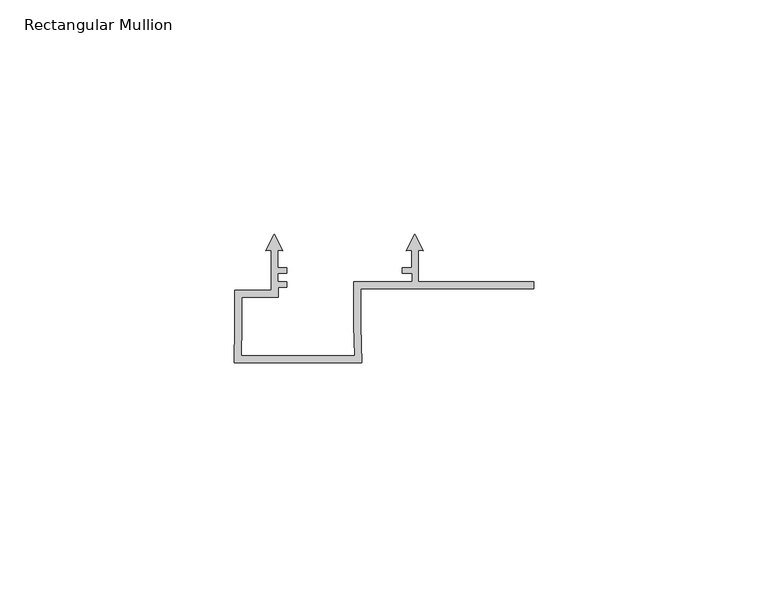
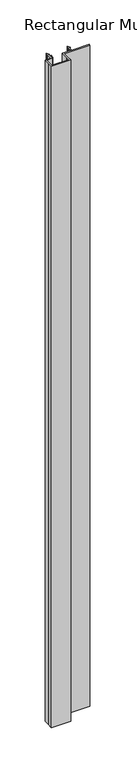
"""IFC4 building model written with IfcOpenShell, lengths in millimetres: member geometry, Rectangular Mullion : Renson_Linarte_LA-B16-01."""

import ifcopenshell
import ifcopenshell.guid

model = None  # the IFC model being written
_history = None  # IfcOwnerHistory: only IFC2X3 demands one
_inside = {}  # id of a spatial element -> (the spatial element, [elements in it])
_under = {}  # id of a project, library or spatial element -> (it, [spatial elements below it])
_declared = {}  # id of a project -> (the project, [libraries it declares])
_typed = {}  # id of a type object -> (the type object, [elements of that type])
_made_of = {}  # id of a material, layer set ... -> (it, [elements and type objects made of it])


def new_model(schema):
    """Start an empty IFC model of exactly this schema.

    Asked for "IFC4X3", IfcOpenShell would pick the latest addendum, in which some entities
    have other attributes; the version numbers below select the first issue.
    IFC2X3 requires an IfcOwnerHistory on every rooted entity: one is made here for all.
    """
    global model, _history
    if schema == "IFC4X3":
        model = ifcopenshell.file(schema_version=(4, 3, 0, 0))
    else:
        model = ifcopenshell.file(schema=schema)
    _inside.clear()
    _under.clear()
    _declared.clear()
    _typed.clear()
    _made_of.clear()
    _history = None
    if model.schema == "IFC2X3":
        org = make("IfcOrganization", Name="unknown")
        user = make(
            "IfcPersonAndOrganization",
            ThePerson=make("IfcPerson", FamilyName="unknown"),
            TheOrganization=org,
        )
        app = make(
            "IfcApplication",
            ApplicationDeveloper=org,
            Version="unknown",
            ApplicationFullName="unknown",
            ApplicationIdentifier="unknown",
        )
        _history = make(
            "IfcOwnerHistory",
            OwningUser=user,
            OwningApplication=app,
            ChangeAction="ADDED",
            CreationDate=0,
        )
    return model


def make(cls, **values):
    """One entity of the class cls with the attributes given. An attribute that is None is left unset."""
    return model.create_entity(
        cls, **{name: value for name, value in values.items() if value is not None}
    )


def rooted(cls, **values):
    """An entity with a GlobalId (a new one), such as an element, a storey or a relation."""
    return make(cls, GlobalId=ifcopenshell.guid.new(), OwnerHistory=_history, **values)


def si_unit(unit_type, name, prefix=None):
    """IfcSIUnit, for example si_unit("LENGTHUNIT", "METRE", prefix="MILLI")."""
    return make("IfcSIUnit", UnitType=unit_type, Prefix=prefix, Name=name)


def assignment(units):
    """IfcUnitAssignment: the units of a project."""
    return None if units is None else make("IfcUnitAssignment", Units=units)


def point(xyz):
    """IfcCartesianPoint."""
    return None if xyz is None else make("IfcCartesianPoint", Coordinates=xyz)


def direction(xyz):
    """IfcDirection."""
    return None if xyz is None else make("IfcDirection", DirectionRatios=xyz)


def frame(location, z_axis=None, x_axis=None):
    """IfcAxis2Placement3D, a coordinate frame: its origin and axes. An axis left out is left unset."""
    return make(
        "IfcAxis2Placement3D",
        Location=point(location),
        Axis=direction(z_axis),
        RefDirection=direction(x_axis),
    )


def origin():
    """The frame at (0, 0, 0) with its axes left unset."""
    return frame((0.0, 0.0, 0.0))


def place(relative_to, where):
    """IfcLocalPlacement: puts the frame where relative to a parent placement (None: the world)."""
    return make(
        "IfcLocalPlacement", PlacementRelTo=relative_to, RelativePlacement=where
    )


def context(
    kind, dimensions, precision=None, world=None, true_north=None, identifier=None
):
    """IfcGeometricRepresentationContext, for example the 3D "Model" context."""
    return make(
        "IfcGeometricRepresentationContext",
        ContextIdentifier=identifier,
        ContextType=kind,
        CoordinateSpaceDimension=dimensions,
        Precision=precision,
        WorldCoordinateSystem=world,
        TrueNorth=true_north,
    )


def project(units=None, contexts=None):
    """IfcProject with its units and contexts."""
    return rooted(
        "IfcProject",
        Name="project",
        RepresentationContexts=contexts,
        UnitsInContext=assignment(units),
    )


def spatial(cls, under=None, at=None, **own):
    """A site, building, storey or space (cls), placed at a placement, below another one or the project."""
    s = rooted(cls, ObjectPlacement=at, **own)
    if under is not None:
        _under.setdefault(under.id(), (under, []))[1].append(s)
    return s


def polyline(points):
    """IfcPolyline through the points."""
    return make("IfcPolyline", Points=[point(p) for p in points])


def outline(outer, holes=None, kind="AREA"):
    """IfcArbitraryClosedProfileDef: a profile drawn as a closed curve; with holes, ...WithVoids."""
    if holes is None:
        return make("IfcArbitraryClosedProfileDef", ProfileType=kind, OuterCurve=outer)
    return make(
        "IfcArbitraryProfileDefWithVoids",
        ProfileType=kind,
        OuterCurve=outer,
        InnerCurves=holes,
    )


def extrude(swept, where, along, depth):
    """IfcExtrudedAreaSolid: the profile swept, set in the frame where, extruded along a direction by depth."""
    return make(
        "IfcExtrudedAreaSolid",
        SweptArea=swept,
        Position=where,
        ExtrudedDirection=direction(along),
        Depth=depth,
    )


def shape(context_of_items, identifier, shape_type, items):
    """IfcShapeRepresentation: the items that make up one representation, for example the "Body"."""
    return make(
        "IfcShapeRepresentation",
        ContextOfItems=context_of_items,
        RepresentationIdentifier=identifier,
        RepresentationType=shape_type,
        Items=items,
    )


def source(mapping_origin, context_of_items, identifier, shape_type, items):
    """IfcRepresentationMap: a shape defined once, which mapped items show again and again."""
    return make(
        "IfcRepresentationMap",
        MappingOrigin=mapping_origin,
        MappedRepresentation=shape(context_of_items, identifier, shape_type, items),
    )


def transform(
    local_origin,
    x_axis=None,
    y_axis=None,
    z_axis=None,
    scale=None,
    scale2=None,
    scale3=None,
    uniform=True,
):
    """IfcCartesianTransformationOperator3D, or its non-uniform kind. x_axis, y_axis, z_axis: its Axis1, 2, 3."""
    if uniform:
        return make(
            "IfcCartesianTransformationOperator3D",
            Axis1=direction(x_axis),
            Axis2=direction(y_axis),
            LocalOrigin=point(local_origin),
            Scale=scale,
            Axis3=direction(z_axis),
        )
    return make(
        "IfcCartesianTransformationOperator3DnonUniform",
        Axis1=direction(x_axis),
        Axis2=direction(y_axis),
        LocalOrigin=point(local_origin),
        Scale=scale,
        Axis3=direction(z_axis),
        Scale2=scale2,
        Scale3=scale3,
    )


def mapped(mapping_source, mapping_target):
    """IfcMappedItem: shows the shape of a source again, moved by a transform."""
    return make(
        "IfcMappedItem", MappingSource=mapping_source, MappingTarget=mapping_target
    )


def made_of(thing, what):
    """Note that an element or type object is made of a material, layer set ...; save() writes the relation."""
    if what is not None:
        _made_of.setdefault(what.id(), (what, []))[1].append(thing)
    return thing


def element(
    cls,
    number,
    at=None,
    inside=None,
    cuts=None,
    type_object=None,
    material=None,
    context=None,
    identifier="Body",
    shape_type=None,
    held_by="IfcProductDefinitionShape",
    body=None,
    shapes=None,
    **own,
):
    """One element of the class cls, such as IfcWall. Its Tag is "e" and its number.

    at: its placement. inside: the storey or other place that contains it. cuts: it is an
    opening in that element (IfcRelVoidsElement). A single representation is given by context,
    identifier, shape_type and body (its items); several are given by shapes. held_by: the class
    of the entity that holds the representations. save() writes the other relations.
    """
    e = rooted(cls, Tag="e%d" % number, ObjectPlacement=at, **own)
    if body is not None:
        shapes = [shape(context, identifier, shape_type, body)]
    if shapes is not None:
        e.Representation = make(held_by, Representations=shapes)
    if inside is not None:
        _inside.setdefault(inside.id(), (inside, []))[1].append(e)
    if cuts is not None:
        rooted(
            "IfcRelVoidsElement", RelatingBuildingElement=cuts, RelatedOpeningElement=e
        )
    if type_object is not None:
        _typed.setdefault(type_object.id(), (type_object, []))[1].append(e)
    return made_of(e, material)


def aggregate(whole, parts):
    """IfcRelAggregates: a whole, such as a stair, and the parts it consists of."""
    return rooted("IfcRelAggregates", RelatingObject=whole, RelatedObjects=parts)


def save(model, path):
    """Write the relations noted so far, then the file.

    IfcRelAggregates (storeys below a building ...), IfcRelContainedInSpatialStructure (elements
    in a storey), IfcRelDefinesByType, IfcRelAssociatesMaterial and IfcRelDeclares: one each for
    every whole, place, type object, material and project.
    """
    for whole, parts in _under.values():
        aggregate(whole, parts)
    for where, things in _inside.values():
        rooted(
            "IfcRelContainedInSpatialStructure",
            RelatedElements=things,
            RelatingStructure=where,
        )
    for kind, things in _typed.values():
        rooted("IfcRelDefinesByType", RelatedObjects=things, RelatingType=kind)
    for what, things in _made_of.values():
        rooted("IfcRelAssociatesMaterial", RelatedObjects=things, RelatingMaterial=what)
    for by, libraries in _declared.values():
        rooted("IfcRelDeclares", RelatingContext=by, RelatedDefinitions=libraries)
    model.write(path)


def rectangular_mullion_31400e68(model_context):
    return source(origin(), model_context, "Body", "SweptSolid", [
        extrude(outline(polyline([(0.0, -52.6000001), (0.1443272, -44.5977912), (0.1443272, -37.0995654), (7.9351461, -37.0995654), (7.9351461, -28.5038205), (6.8194096, -28.6014348), (8.6351462, -25.0378474), (10.4508827, -28.6014348), (9.3351463, -28.5038206), (9.3351463, -32.198351), (11.3227094, -32.198351), (11.3227094, -33.4004386), (9.344327, -33.4004386), (9.344327, -35.1999954), (11.3232242, -35.1999954), (11.3232242, -36.4015214), (9.4446143, -36.4015214), (9.4446143, -38.5997951), (1.6351472, -38.5997951), (1.6351135, -44.6153631), (1.5181226, -51.0999998), (25.7521689, -51.0999998), (25.6351455, -44.6117002), (25.6351455, -35.1999997), (38.0351451, -35.1999997), (38.0351451, -33.4008281), (35.942882, -33.4008281), (35.942882, -32.1999997), (37.9351461, -32.1999997), (37.9351461, -28.5038204), (36.8194083, -28.6014348), (38.635145, -25.0378474), (40.4508816, -28.6014348), (39.3351463, -28.5038207), (39.3351463, -35.2056679), (64.1, -35.2056679), (64.1, -36.7004291), (27.1353052, -36.7004291), (27.1352165, -44.6039069), (27.279476, -52.6000001), (0.0, -52.6000001)])), frame((0.0, 0.0, -1000.0), z_axis=(0.0, 0.0, 1.0), x_axis=(1.0, 0.0, 0.0)), (0.0, 0.0, 1.0), 1000.0),
    ])


if __name__ == "__main__":
    model = new_model("IFC4")
    model_context = context("Model", 3, world=origin())
    ifc_project = project(units=[si_unit("LENGTHUNIT", "METRE", prefix="MILLI")], contexts=[model_context])
    site = spatial("IfcSite", under=ifc_project)
    building = spatial("IfcBuilding", under=site)
    placement = place(None, origin())
    rectangular_mullion_shape = rectangular_mullion_31400e68(model_context)
    element("IfcMember", 1, ObjectType="Rectangular Mullion : Renson_Linarte_LA-B16-01", at=placement, inside=building, context=model_context, shape_type="MappedRepresentation", body=[
        mapped(rectangular_mullion_shape, transform((0.0, 0.0, 0.0), x_axis=(1.0, 0.0, 0.0), y_axis=(0.0, 1.0, 0.0), z_axis=(0.0, 0.0, 1.0))),
    ])
    save(model, "model.ifc")
